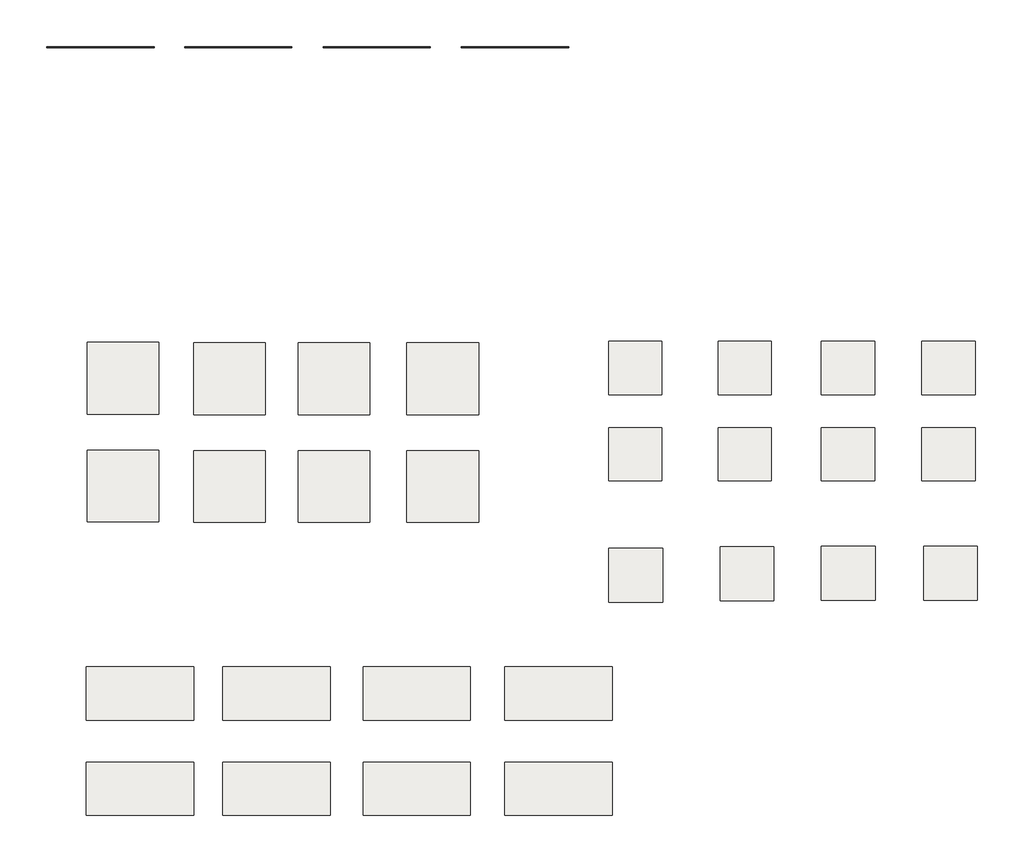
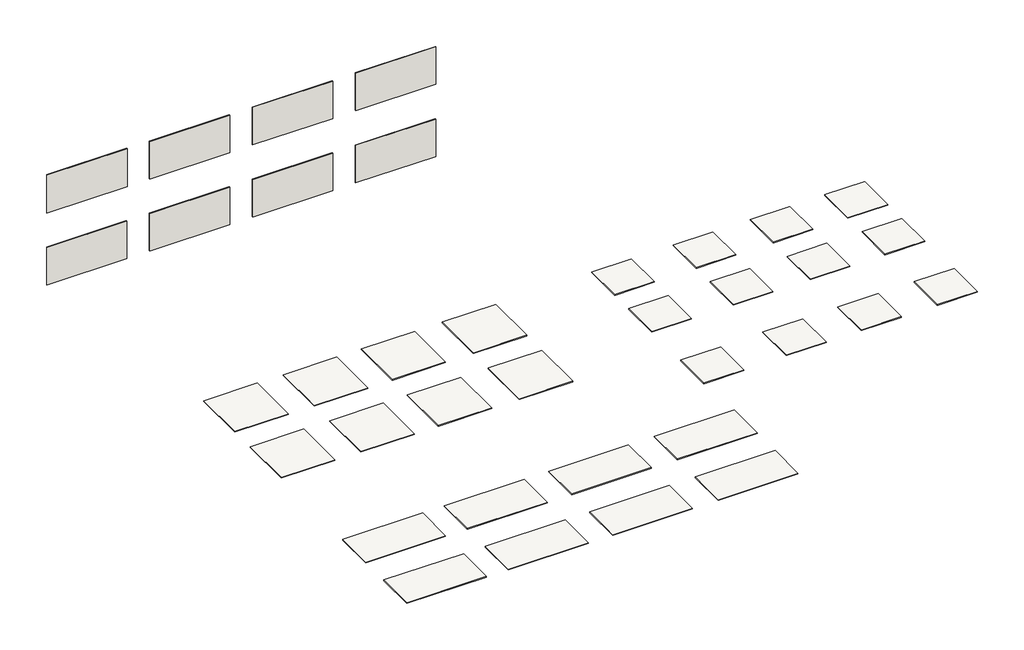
# One storey: 28 slabs, 8 walls.
"""IFC4 building model written with IfcOpenShell, lengths in millimetres."""

from ifc_helpers import new_model, si_unit, frame, origin, origin_with_axes, place, context, project, spatial, polyline, outline, extrude, element, save

model = new_model("IFC4")

# Units and contexts
model_context = context("Model", 3, world=origin())
ifc_project = project(units=[si_unit("LENGTHUNIT", "METRE", prefix="MILLI")], contexts=[model_context])

# Site, building, storey
site = spatial("IfcSite", under=ifc_project)
building = spatial("IfcBuilding", under=site)
storey = spatial("IfcBuildingStorey", under=building, Name="PORTOFINO FLOOR TILES", Elevation=0.0)

# Slabs
placement = place(None, origin())
element("IfcSlab", 1, ObjectType="VIVES PORTOFINO-R CEMENTO 59,3x119,3", at=placement, inside=storey, context=model_context, shape_type="SweptSolid", body=[
    extrude(outline(polyline([(-1376.2055297, -6408.2394727), (-1376.2055297, -7001.2394727), (-2569.2055297, -7001.2394727), (-2569.2055297, -6408.2394727), (-1376.2055297, -6408.2394727)])), frame((0.0, 0.0, -11.0), z_axis=(0.0, 0.0, 1.0), x_axis=(1.0, 0.0, 0.0)), (0.0, 0.0, 1.0), 11.0),
])
element("IfcSlab", 2, ObjectType="VIVES PORTOFINO-R GRAFITO 80X80", at=placement, inside=storey, context=model_context, shape_type="SweptSolid", body=[
    extrude(outline(polyline([(-575.6257377, -2799.306082), (-575.6257377, -3599.306082), (-1375.6257377, -3599.306082), (-1375.6257377, -2799.306082), (-575.6257377, -2799.306082)])), frame((0.0, 0.0, -11.0), z_axis=(0.0, 0.0, 1.0), x_axis=(1.0, 0.0, 0.0)), (0.0, 0.0, 1.0), 11.0),
])
element("IfcSlab", 3, ObjectType="VIVES PORTOFINO-R CREMA 80X80", at=placement, inside=storey, context=model_context, shape_type="SweptSolid", body=[
    extrude(outline(polyline([(588.0083506, -2799.306082), (588.0083506, -3599.306082), (-211.9916494, -3599.306082), (-211.9916494, -2799.306082), (588.0083506, -2799.306082)])), frame((0.0, 0.0, -11.0), z_axis=(0.0, 0.0, 1.0), x_axis=(1.0, 0.0, 0.0)), (0.0, 0.0, 1.0), 11.0),
])
element("IfcSlab", 4, ObjectType="VIVES PORTOFINO-R HUMO 80X80", at=placement, inside=storey, context=model_context, shape_type="SweptSolid", body=[
    extrude(outline(polyline([(1800.3312344, -2799.306082), (1800.3312344, -3599.306082), (1000.3312344, -3599.306082), (1000.3312344, -2799.306082), (1800.3312344, -2799.306082)])), frame((0.0, 0.0, -11.0), z_axis=(0.0, 0.0, 1.0), x_axis=(1.0, 0.0, 0.0)), (0.0, 0.0, 1.0), 11.0),
])
element("IfcSlab", 5, ObjectType="VIVES PORTOFINO-R CEMENTO 80X80", at=placement, inside=storey, context=model_context, shape_type="SweptSolid", body=[
    extrude(outline(polyline([(-1761.6918829, -2794.383194), (-1761.6918829, -3594.383194), (-2561.6918829, -3594.383194), (-2561.6918829, -2794.383194), (-1761.6918829, -2794.383194)])), frame((0.0, 0.0, -11.0), z_axis=(0.0, 0.0, 1.0), x_axis=(1.0, 0.0, 0.0)), (0.0, 0.0, 1.0), 11.0),
])
element("IfcSlab", 6, ObjectType="VIVES PORTOFINO-R GRAFITO 59,3x119,3", at=placement, inside=storey, context=model_context, shape_type="SweptSolid", body=[
    extrude(outline(polyline([(143.7944703, -6408.2394727), (143.7944703, -7001.2394727), (-1049.2055297, -7001.2394727), (-1049.2055297, -6408.2394727), (143.7944703, -6408.2394727)])), frame((0.0, 0.0, -11.0), z_axis=(0.0, 0.0, 1.0), x_axis=(1.0, 0.0, 0.0)), (0.0, 0.0, 1.0), 11.0),
])
element("IfcSlab", 7, ObjectType="VIVES PORTOFINO-R CREMA 59,3x119,3", at=placement, inside=storey, context=model_context, shape_type="SweptSolid", body=[
    extrude(outline(polyline([(1703.7944703, -6408.2394727), (1703.7944703, -7001.2394727), (510.7944703, -7001.2394727), (510.7944703, -6408.2394727), (1703.7944703, -6408.2394727)])), frame((0.0, 0.0, -11.0), z_axis=(0.0, 0.0, 1.0), x_axis=(1.0, 0.0, 0.0)), (0.0, 0.0, 1.0), 11.0),
])
element("IfcSlab", 8, ObjectType="VIVES PORTOFINO-R HUMO 59,3x119,3", at=placement, inside=storey, context=model_context, shape_type="SweptSolid", body=[
    extrude(outline(polyline([(3283.7944703, -6408.2394727), (3283.7944703, -7001.2394727), (2090.7944703, -7001.2394727), (2090.7944703, -6408.2394727), (3283.7944703, -6408.2394727)])), frame((0.0, 0.0, -11.0), z_axis=(0.0, 0.0, 1.0), x_axis=(1.0, 0.0, 0.0)), (0.0, 0.0, 1.0), 11.0),
])
element("IfcSlab", 9, ObjectType="VIVES PORTOFINO-SPR CEMENTO 59,3x119,3", at=placement, inside=storey, context=model_context, shape_type="SweptSolid", body=[
    extrude(outline(polyline([(-1376.2055297, -7468.2394727), (-1376.2055297, -8061.2394727), (-2569.2055297, -8061.2394727), (-2569.2055297, -7468.2394727), (-1376.2055297, -7468.2394727)])), frame((0.0, 0.0, -11.0), z_axis=(0.0, 0.0, 1.0), x_axis=(1.0, 0.0, 0.0)), (0.0, 0.0, 1.0), 11.0),
])
element("IfcSlab", 10, ObjectType="VIVES PORTOFINO-SPR GRAFITO 59,3x119,3", at=placement, inside=storey, context=model_context, shape_type="SweptSolid", body=[
    extrude(outline(polyline([(143.7944703, -7468.2394727), (143.7944703, -8061.2394727), (-1049.2055297, -8061.2394727), (-1049.2055297, -7468.2394727), (143.7944703, -7468.2394727)])), frame((0.0, 0.0, -11.0), z_axis=(0.0, 0.0, 1.0), x_axis=(1.0, 0.0, 0.0)), (0.0, 0.0, 1.0), 11.0),
])
element("IfcSlab", 11, ObjectType="VIVES PORTOFINO-SPR CREMA 59,3x119,3", at=placement, inside=storey, context=model_context, shape_type="SweptSolid", body=[
    extrude(outline(polyline([(1703.7944703, -7468.2394727), (1703.7944703, -8061.2394727), (510.7944703, -8061.2394727), (510.7944703, -7468.2394727), (1703.7944703, -7468.2394727)])), frame((0.0, 0.0, -11.0), z_axis=(0.0, 0.0, 1.0), x_axis=(1.0, 0.0, 0.0)), (0.0, 0.0, 1.0), 11.0),
])
element("IfcSlab", 12, ObjectType="VIVES PORTOFINO-SPR HUMO 59,3x119,3", at=placement, inside=storey, context=model_context, shape_type="SweptSolid", body=[
    extrude(outline(polyline([(3283.7944703, -7468.2394727), (3283.7944703, -8061.2394727), (2090.7944703, -8061.2394727), (2090.7944703, -7468.2394727), (3283.7944703, -7468.2394727)])), frame((0.0, 0.0, -11.0), z_axis=(0.0, 0.0, 1.0), x_axis=(1.0, 0.0, 0.0)), (0.0, 0.0, 1.0), 11.0),
])
element("IfcSlab", 13, ObjectType="VIVES PORTOFINO-SPR GRAFITO 80X80", at=placement, inside=storey, context=model_context, shape_type="SweptSolid", body=[
    extrude(outline(polyline([(-575.6257377, -3999.306082), (-575.6257377, -4799.306082), (-1375.6257377, -4799.306082), (-1375.6257377, -3999.306082), (-575.6257377, -3999.306082)])), frame((0.0, 0.0, -11.0), z_axis=(0.0, 0.0, 1.0), x_axis=(1.0, 0.0, 0.0)), (0.0, 0.0, 1.0), 11.0),
])
element("IfcSlab", 14, ObjectType="VIVES PORTOFINO-SPR CREMA 80X80", at=placement, inside=storey, context=model_context, shape_type="SweptSolid", body=[
    extrude(outline(polyline([(588.0083506, -3999.306082), (588.0083506, -4799.306082), (-211.9916494, -4799.306082), (-211.9916494, -3999.306082), (588.0083506, -3999.306082)])), frame((0.0, 0.0, -11.0), z_axis=(0.0, 0.0, 1.0), x_axis=(1.0, 0.0, 0.0)), (0.0, 0.0, 1.0), 11.0),
])
element("IfcSlab", 15, ObjectType="VIVES PORTOFINO-SPR HUMO 80X80", at=placement, inside=storey, context=model_context, shape_type="SweptSolid", body=[
    extrude(outline(polyline([(1800.3312344, -3999.306082), (1800.3312344, -4799.306082), (1000.3312344, -4799.306082), (1000.3312344, -3999.306082), (1800.3312344, -3999.306082)])), frame((0.0, 0.0, -11.0), z_axis=(0.0, 0.0, 1.0), x_axis=(1.0, 0.0, 0.0)), (0.0, 0.0, 1.0), 11.0),
])
element("IfcSlab", 16, ObjectType="VIVES PORTOFINO-SPR CEMENTO 80X80", at=placement, inside=storey, context=model_context, shape_type="SweptSolid", body=[
    extrude(outline(polyline([(-1761.6918829, -3994.383194), (-1761.6918829, -4794.383194), (-2561.6918829, -4794.383194), (-2561.6918829, -3994.383194), (-1761.6918829, -3994.383194)])), frame((0.0, 0.0, -11.0), z_axis=(0.0, 0.0, 1.0), x_axis=(1.0, 0.0, 0.0)), (0.0, 0.0, 1.0), 11.0),
])
element("IfcSlab", 17, ObjectType="VIVES PORTOFINO CEMENTO 60X60", at=placement, inside=storey, context=model_context, shape_type="SweptSolid", body=[
    extrude(outline(polyline([(3847.8730294, -5086.1143686), (3847.8730294, -5686.1143686), (3247.8730294, -5686.1143686), (3247.8730294, -5086.1143686), (3847.8730294, -5086.1143686)])), frame((0.0, 0.0, -10.0), z_axis=(0.0, 0.0, 1.0), x_axis=(1.0, 0.0, 0.0)), (0.0, 0.0, 1.0), 10.0),
])
element("IfcSlab", 18, ObjectType="VIVES PORTOFINO GRAFITO 60X60", at=placement, inside=storey, context=model_context, shape_type="SweptSolid", body=[
    extrude(outline(polyline([(5086.6555629, -5069.4098905), (5086.6555629, -5669.4098905), (4486.6555629, -5669.4098905), (4486.6555629, -5069.4098905), (5086.6555629, -5069.4098905)])), frame((0.0, 0.0, -10.0), z_axis=(0.0, 0.0, 1.0), x_axis=(1.0, 0.0, 0.0)), (0.0, 0.0, 1.0), 10.0),
])
element("IfcSlab", 19, ObjectType="VIVES PORTOFINO CREMA 60X60", at=placement, inside=storey, context=model_context, shape_type="SweptSolid", body=[
    extrude(outline(polyline([(6213.3081171, -5064.383194), (6213.3081171, -5664.383194), (5613.3081171, -5664.383194), (5613.3081171, -5064.383194), (6213.3081171, -5064.383194)])), frame((0.0, 0.0, -10.0), z_axis=(0.0, 0.0, 1.0), x_axis=(1.0, 0.0, 0.0)), (0.0, 0.0, 1.0), 10.0),
])
element("IfcSlab", 20, ObjectType="VIVES PORTOFINO HUMO 60X60", at=placement, inside=storey, context=model_context, shape_type="SweptSolid", body=[
    extrude(outline(polyline([(7353.3081171, -5064.383194), (7353.3081171, -5664.383194), (6753.3081171, -5664.383194), (6753.3081171, -5064.383194), (7353.3081171, -5064.383194)])), frame((0.0, 0.0, -10.0), z_axis=(0.0, 0.0, 1.0), x_axis=(1.0, 0.0, 0.0)), (0.0, 0.0, 1.0), 10.0),
])
element("IfcSlab", 21, ObjectType="VIVES PORTOFINO-SPR CEMENTO 59,3X59,3", at=placement, inside=storey, context=model_context, shape_type="SweptSolid", body=[
    extrude(outline(polyline([(3838.3081171, -3744.383194), (3838.3081171, -4337.383194), (3245.3081171, -4337.383194), (3245.3081171, -3744.383194), (3838.3081171, -3744.383194)])), frame((0.0, 0.0, -10.0), z_axis=(0.0, 0.0, 1.0), x_axis=(1.0, 0.0, 0.0)), (0.0, 0.0, 1.0), 10.0),
])
element("IfcSlab", 22, ObjectType="VIVES PORTOFINO-SPR GRAFITO 59,3X59,3", at=placement, inside=storey, context=model_context, shape_type="SweptSolid", body=[
    extrude(outline(polyline([(5058.3081171, -3744.383194), (5058.3081171, -4337.383194), (4465.3081171, -4337.383194), (4465.3081171, -3744.383194), (5058.3081171, -3744.383194)])), frame((0.0, 0.0, -10.0), z_axis=(0.0, 0.0, 1.0), x_axis=(1.0, 0.0, 0.0)), (0.0, 0.0, 1.0), 10.0),
])
element("IfcSlab", 23, ObjectType="VIVES PORTOFINO-SPR CREMA 59,3X59,3", at=placement, inside=storey, context=model_context, shape_type="SweptSolid", body=[
    extrude(outline(polyline([(6208.3081171, -3744.383194), (6208.3081171, -4337.383194), (5615.3081171, -4337.383194), (5615.3081171, -3744.383194), (6208.3081171, -3744.383194)])), frame((0.0, 0.0, -10.0), z_axis=(0.0, 0.0, 1.0), x_axis=(1.0, 0.0, 0.0)), (0.0, 0.0, 1.0), 10.0),
])
element("IfcSlab", 24, ObjectType="VIVES PORTOFINO-SPR HUMO 59,3X59,3", at=placement, inside=storey, context=model_context, shape_type="SweptSolid", body=[
    extrude(outline(polyline([(7328.3081171, -3744.383194), (7328.3081171, -4337.383194), (6735.3081171, -4337.383194), (6735.3081171, -3744.383194), (7328.3081171, -3744.383194)])), frame((0.0, 0.0, -10.0), z_axis=(0.0, 0.0, 1.0), x_axis=(1.0, 0.0, 0.0)), (0.0, 0.0, 1.0), 10.0),
])
element("IfcSlab", 25, ObjectType="VIVES PORTOFINO-R CEMENTO 59,3X59,3", at=placement, inside=storey, context=model_context, shape_type="SweptSolid", body=[
    extrude(outline(polyline([(3838.3081171, -2784.383194), (3838.3081171, -3377.383194), (3245.3081171, -3377.383194), (3245.3081171, -2784.383194), (3838.3081171, -2784.383194)])), frame((0.0, 0.0, -10.0), z_axis=(0.0, 0.0, 1.0), x_axis=(1.0, 0.0, 0.0)), (0.0, 0.0, 1.0), 10.0),
])
element("IfcSlab", 26, ObjectType="VIVES PORTOFINO-R GRAFITO 59,3X59,3", at=placement, inside=storey, context=model_context, shape_type="SweptSolid", body=[
    extrude(outline(polyline([(5058.3081171, -2784.383194), (5058.3081171, -3377.383194), (4465.3081171, -3377.383194), (4465.3081171, -2784.383194), (5058.3081171, -2784.383194)])), frame((0.0, 0.0, -10.0), z_axis=(0.0, 0.0, 1.0), x_axis=(1.0, 0.0, 0.0)), (0.0, 0.0, 1.0), 10.0),
])
element("IfcSlab", 27, ObjectType="VIVES PORTOFINO-R CREMA 59,3X59,3", at=placement, inside=storey, context=model_context, shape_type="SweptSolid", body=[
    extrude(outline(polyline([(6208.3081171, -2784.383194), (6208.3081171, -3377.383194), (5615.3081171, -3377.383194), (5615.3081171, -2784.383194), (6208.3081171, -2784.383194)])), frame((0.0, 0.0, -10.0), z_axis=(0.0, 0.0, 1.0), x_axis=(1.0, 0.0, 0.0)), (0.0, 0.0, 1.0), 10.0),
])
element("IfcSlab", 28, ObjectType="VIVES PORTOFINO-R HUMO 59,3X59,3", at=placement, inside=storey, context=model_context, shape_type="SweptSolid", body=[
    extrude(outline(polyline([(7328.3081171, -2784.383194), (7328.3081171, -3377.383194), (6735.3081171, -3377.383194), (6735.3081171, -2784.383194), (7328.3081171, -2784.383194)])), frame((0.0, 0.0, -10.0), z_axis=(0.0, 0.0, 1.0), x_axis=(1.0, 0.0, 0.0)), (0.0, 0.0, 1.0), 10.0),
])

# Walls
element("IfcWall", 29, ObjectType="VIVES - PORTOFINO-SPR CEMENTO 59,3X119,3", at=placement, inside=storey, context=model_context, shape_type="SweptSolid", body=[
    extrude(outline(polyline([(-1820.4016277, 488.6915317), (-3013.4016277, 488.6915317), (-3013.4016277, 499.6915317), (-1820.4016277, 499.6915317), (-1820.4016277, 488.6915317)])), origin_with_axes(), (0.0, 0.0, 1.0), 593.0),
])
element("IfcWall", 30, ObjectType="VIVES - PORTOFINO-SPR GRAFITO 59,3X119,3", at=placement, inside=storey, context=model_context, shape_type="SweptSolid", body=[
    extrude(outline(polyline([(-280.4016277, 488.6915317), (-1473.4016277, 488.6915317), (-1473.4016277, 499.6915317), (-280.4016277, 499.6915317), (-280.4016277, 488.6915317)])), origin_with_axes(), (0.0, 0.0, 1.0), 593.0),
])
element("IfcWall", 31, ObjectType="VIVES - PORTOFINO-SPR CREMA 59,3X119,3", at=placement, inside=storey, context=model_context, shape_type="SweptSolid", body=[
    extrude(outline(polyline([(1259.5983723, 488.6915317), (66.5983723, 488.6915317), (66.5983723, 499.6915317), (1259.5983723, 499.6915317), (1259.5983723, 488.6915317)])), origin_with_axes(), (0.0, 0.0, 1.0), 593.0),
])
element("IfcWall", 32, ObjectType="VIVES - PORTOFINO-SPR HUMO 59,3X119,3", at=placement, inside=storey, context=model_context, shape_type="SweptSolid", body=[
    extrude(outline(polyline([(2799.5983723, 488.6915317), (1606.5983723, 488.6915317), (1606.5983723, 499.6915317), (2799.5983723, 499.6915317), (2799.5983723, 488.6915317)])), origin_with_axes(), (0.0, 0.0, 1.0), 593.0),
])
element("IfcWall", 33, ObjectType="VIVES - PORTOFINO-R CEMENTO 59,3X119,3", at=placement, inside=storey, context=model_context, shape_type="SweptSolid", body=[
    extrude(outline(polyline([(-1813.4016277, 488.6915317), (-3013.4016277, 488.6915317), (-3013.4016277, 499.6915317), (-1813.4016277, 499.6915317), (-1813.4016277, 488.6915317)])), frame((0.0, 0.0, 1140.0), z_axis=(0.0, 0.0, 1.0), x_axis=(1.0, 0.0, 0.0)), (0.0, 0.0, 1.0), 600.0),
])
element("IfcWall", 34, ObjectType="VIVES - PORTOFINO-R GRAFITO 59,3X119,3", at=placement, inside=storey, context=model_context, shape_type="SweptSolid", body=[
    extrude(outline(polyline([(-280.4016277, 488.6915317), (-1473.4016277, 488.6915317), (-1473.4016277, 499.6915317), (-280.4016277, 499.6915317), (-280.4016277, 488.6915317)])), frame((0.0, 0.0, 1140.0), z_axis=(0.0, 0.0, 1.0), x_axis=(1.0, 0.0, 0.0)), (0.0, 0.0, 1.0), 593.0),
])
element("IfcWall", 35, ObjectType="VIVES - PORTOFINO-R CREMA 59,3X119,3", at=placement, inside=storey, context=model_context, shape_type="SweptSolid", body=[
    extrude(outline(polyline([(1259.5983723, 488.6915317), (66.5983723, 488.6915317), (66.5983723, 499.6915317), (1259.5983723, 499.6915317), (1259.5983723, 488.6915317)])), frame((0.0, 0.0, 1140.0), z_axis=(0.0, 0.0, 1.0), x_axis=(1.0, 0.0, 0.0)), (0.0, 0.0, 1.0), 593.0),
])
element("IfcWall", 36, ObjectType="VIVES - PORTOFINO-R HUMO 59,3X119,3", at=placement, inside=storey, context=model_context, shape_type="SweptSolid", body=[
    extrude(outline(polyline([(2799.5983723, 488.6915317), (1606.5983723, 488.6915317), (1606.5983723, 499.6915317), (2799.5983723, 499.6915317), (2799.5983723, 488.6915317)])), frame((0.0, 0.0, 1140.0), z_axis=(0.0, 0.0, 1.0), x_axis=(1.0, 0.0, 0.0)), (0.0, 0.0, 1.0), 593.0),
])

save(model, "model.ifc")
